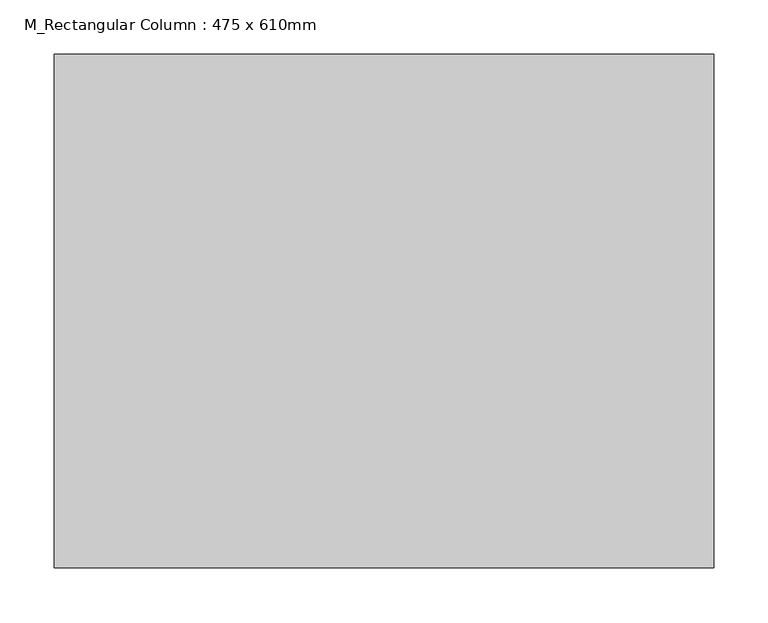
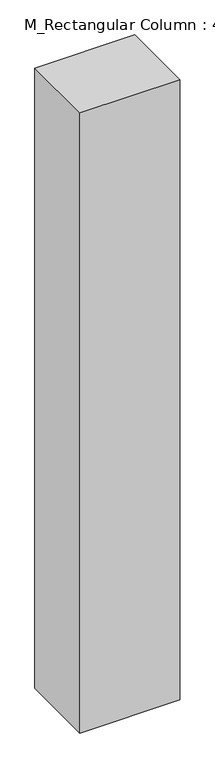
"""IFC4 building model written with IfcOpenShell, lengths in millimetres: column geometry, M_Rectangular Column : 475 x 610mm."""

from ifc_helpers import new_model, si_unit, origin, origin_with_axes, place, context, project, spatial, polyline, outline, extrude, source, transform, mapped, element, save


def m_rectangular_column_475_x_610mm_b7c60445(model_context):
    return source(origin(), model_context, "Body", "SweptSolid", [
        extrude(outline(polyline([(305.0, 237.5), (305.0, -237.5), (-305.0, -237.5), (-305.0, 237.5), (305.0, 237.5)])), origin_with_axes(), (0.0, 0.0, 1.0), 4000.0),
    ])


if __name__ == "__main__":
    model = new_model("IFC4")
    model_context = context("Model", 3, world=origin())
    ifc_project = project(units=[si_unit("LENGTHUNIT", "METRE", prefix="MILLI")], contexts=[model_context])
    site = spatial("IfcSite", under=ifc_project)
    building = spatial("IfcBuilding", under=site)
    placement = place(None, origin())
    m_rectangular_column_475_x_610mm_shape = m_rectangular_column_475_x_610mm_b7c60445(model_context)
    element("IfcColumn", 1, ObjectType="M_Rectangular Column : 475 x 610mm", at=placement, inside=building, context=model_context, shape_type="MappedRepresentation", body=[
        mapped(m_rectangular_column_475_x_610mm_shape, transform((0.0, 0.0, 0.0), x_axis=(1.0, 0.0, 0.0), y_axis=(0.0, 1.0, 0.0), z_axis=(0.0, 0.0, 1.0))),
    ])
    save(model, "model.ifc")
